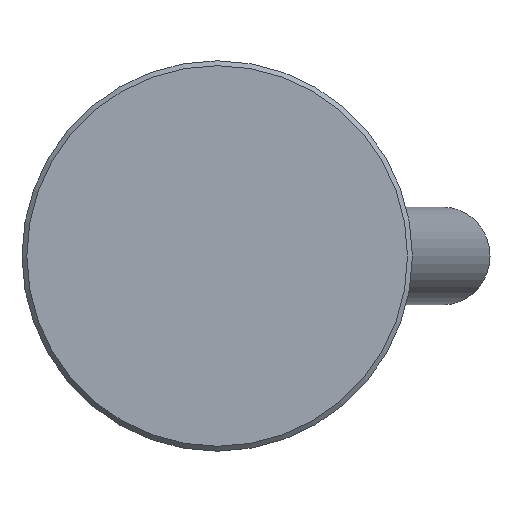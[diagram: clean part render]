
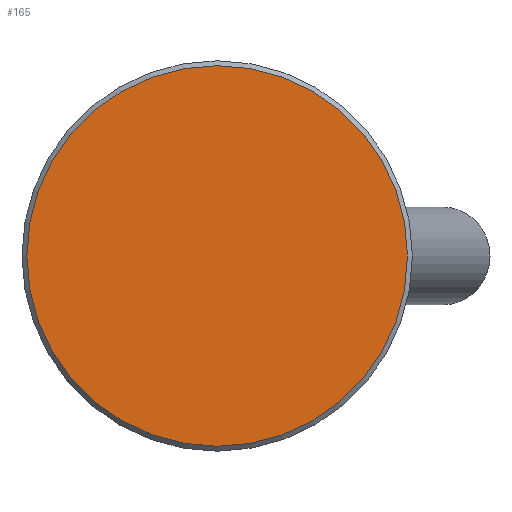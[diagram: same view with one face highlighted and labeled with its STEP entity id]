
A CAD part, front view. The second image highlights one B-rep face of the part: STEP entity #165.
In plain terms, the highlighted planar face has unit normal (0, -1, 0).
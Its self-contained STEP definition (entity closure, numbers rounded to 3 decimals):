
#165 = ADVANCED_FACE( '', ( #328 ), #329, .F. );
#328 = FACE_OUTER_BOUND( '', #510, .T. );
#329 = PLANE( '', #511 );
#510 = EDGE_LOOP( '', ( #741 ) );
#511 = AXIS2_PLACEMENT_3D( '', #742, #743, #744 );
#741 = ORIENTED_EDGE( '', *, *, #1067, .T. );
#742 = CARTESIAN_POINT( '', ( 19.5, 0., 0. ) );
#743 = DIRECTION( '', ( 0., 1., 0. ) );
#744 = DIRECTION( '', ( 0., 0., 1. ) );
#1067 = EDGE_CURVE( '', #1244, #1244, #1245, .T. );
#1244 = VERTEX_POINT( '', #1550 );
#1245 = CIRCLE( '', #1551, 19.5 );
#1550 = CARTESIAN_POINT( '', ( 0., 0., -19.5 ) );
#1551 = AXIS2_PLACEMENT_3D( '', #1886, #1887, #1888 );
#1886 = CARTESIAN_POINT( '', ( 0., 0., 0. ) );
#1887 = DIRECTION( '', ( 0., -1., 0. ) );
#1888 = DIRECTION( '', ( 0., 0., -1. ) );
